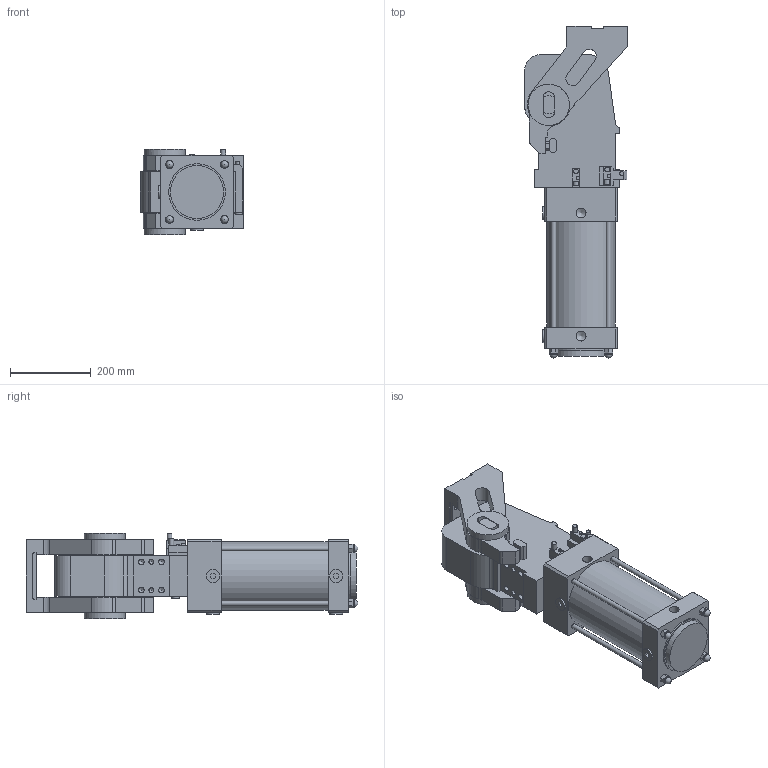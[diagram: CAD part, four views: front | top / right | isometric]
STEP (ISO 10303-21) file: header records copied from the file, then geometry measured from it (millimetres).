
FILE_DESCRIPTION(/* description */ (''),/* implementation_level */ '2;1');
FILE_NAME(/* name */ 'S:\Tom\INVENTOR FILES\AUTOMOTIVE\VEP\DUMP UNITS\C05.P015 RFM.2-RF.2\C05.P015 RFM.2-RF.2\RFM160\SATs\XPUZ160.2-76-4-ESL-P-G-X.stp',/* time_stamp */ '2018-07-29T18:13:19+01:00',/* author */ ('carl'),/* organization */ (''),/* preprocessor_version */ 'ST-DEVELOPER v16.13',/* originating_system */ 'Autodesk Inventor 2018',/* authorisation */ '');
FILE_SCHEMA (('AUTOMOTIVE_DESIGN { 1 0 10303 214 3 1 1 }'));
Length unit declared in the file: millimetre
Products named in the file (11): XPUZ160.2-76-4-ESL-P-G-X_TOP; XPUZ160; XPUZ160_1; XPUZ160_2; XPUZ160_3; XPUZ160_4; XPUZ160_5; XPUZ160_6; XPUZ160_7; XPUZ160_8; XPUZ160_9
Assembly tree (10 placements, depth 2):
  XPUZ160.2-76-4-ESL-P-G-X_TOP
    XPUZ160
    XPUZ160_1
    XPUZ160_2
    XPUZ160_3
    XPUZ160_4
    XPUZ160_5
    XPUZ160_6
    XPUZ160_7
    XPUZ160_8
    XPUZ160_9
Bounding box: 255 x 821 x 212 mm (x, y, z)
Volume: 20454396.3 mm3; surface area: 976869 mm2
Topology: 10 solids, 10 shells, 404 faces, 1002 edges, 659 vertices
Faces by surface type: plane 268, cylinder 114, cone 18, sphere 4
Full cylindrical faces by diameter (mm): 5.5 x2, 8.5 x2, 10 x3, 10.2 x1, 11.8 x2, 12 x12, 13 x1, 14 x12, 18 x5, 24.5 x6, 26 x4, 32 x4, 45 x1, 50.5 x1, 60 x2, 102 x2, 131 x1, 140 x1, 170 x1
Entity records: 11701 total; most frequent: DIRECTION 1972, CARTESIAN_POINT 1943, ORIENTED_EDGE 1776, EDGE_CURVE 888, AXIS2_PLACEMENT_3D 659, LINE 654, VECTOR 654, VERTEX_POINT 630
